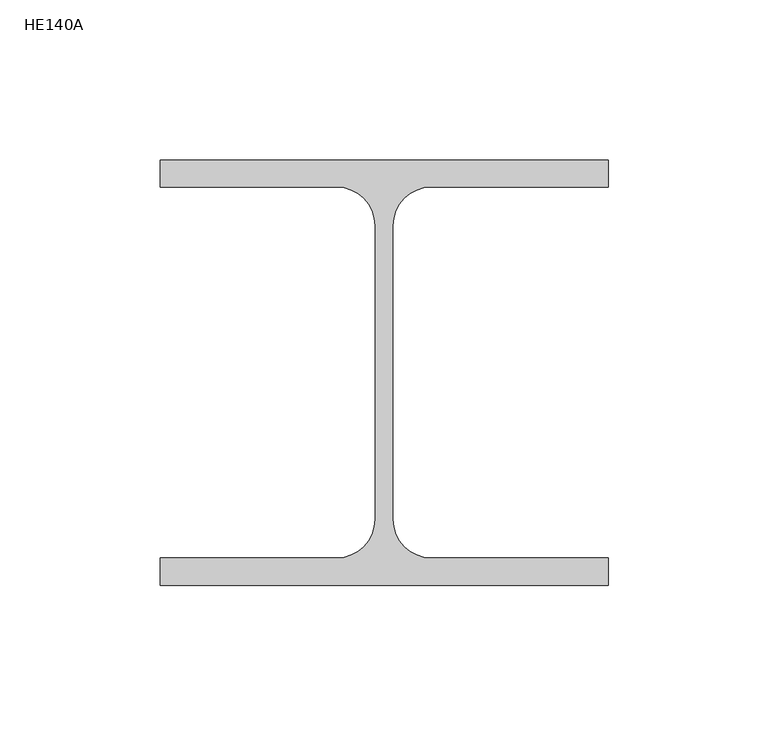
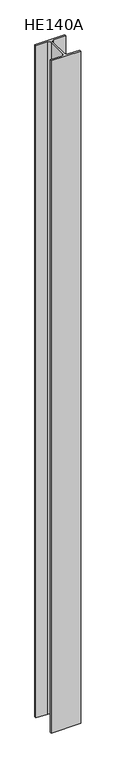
"""IFC4 building model written with IfcOpenShell, lengths in millimetres: column geometry, H-Poutrelles-Poteau : HE140A."""

from ifc_helpers import new_model, si_unit, point, frame, frame_2d, origin, place, context, project, spatial, polyline, circle_curve, trimmed, segment, composite_curve, outline, extrude, source, transform, mapped, element, save


def he140a_3b6efd71(model_context):
    return source(origin(), model_context, "Body", "SweptSolid", [
        extrude(outline(composite_curve([segment(polyline([(70.0, 66.5), (70.0, 58.0), (14.75, 58.0)]), True, "CONTINUOUS"), segment(trimmed(circle_curve(frame_2d((14.75, 46.0)), 12.0), [point((14.75, 58.0))], [point((2.75, 46.0))], True, "CARTESIAN"), True, "CONTINUOUS"), segment(polyline([(2.75, 46.0), (2.75, -46.0)]), True, "CONTINUOUS"), segment(trimmed(circle_curve(frame_2d((14.75, -46.0)), 12.0), [point((2.75, -46.0))], [point((14.75, -58.0))], True, "CARTESIAN"), True, "CONTINUOUS"), segment(polyline([(14.75, -58.0), (70.0, -58.0), (70.0, -66.5), (-70.0, -66.5), (-70.0, -58.0), (-14.75, -58.0)]), True, "CONTINUOUS"), segment(trimmed(circle_curve(frame_2d((-14.75, -46.0)), 12.0), [point((-14.75, -58.0))], [point((-2.75, -46.0))], True, "CARTESIAN"), True, "CONTINUOUS"), segment(polyline([(-2.75, -46.0), (-2.75, 46.0)]), True, "CONTINUOUS"), segment(trimmed(circle_curve(frame_2d((-14.75, 46.0)), 12.0), [point((-2.75, 46.0))], [point((-14.75, 58.0))], True, "CARTESIAN"), True, "CONTINUOUS"), segment(polyline([(-14.75, 58.0), (-70.0, 58.0), (-70.0, 66.5), (70.0, 66.5)]), True, "CONTINUOUS")], self_intersect=False)), frame((0.0, 0.0, 869500.0), z_axis=(0.0, 0.0, 1.0), x_axis=(1.0, 0.0, 0.0)), (0.0, 0.0, 1.0), 3350.0),
    ])


if __name__ == "__main__":
    model = new_model("IFC4")
    model_context = context("Model", 3, world=origin())
    ifc_project = project(units=[si_unit("LENGTHUNIT", "METRE", prefix="MILLI")], contexts=[model_context])
    site = spatial("IfcSite", under=ifc_project)
    building = spatial("IfcBuilding", under=site)
    placement = place(None, origin())
    he140a_shape = he140a_3b6efd71(model_context)
    element("IfcColumn", 1, ObjectType="H-Poutrelles-Poteau : HE140A", at=placement, inside=building, context=model_context, shape_type="MappedRepresentation", body=[
        mapped(he140a_shape, transform((0.0, 0.0, 0.0), x_axis=(1.0, 0.0, 0.0), y_axis=(0.0, 1.0, 0.0), z_axis=(0.0, 0.0, 1.0))),
    ])
    save(model, "model.ifc")
